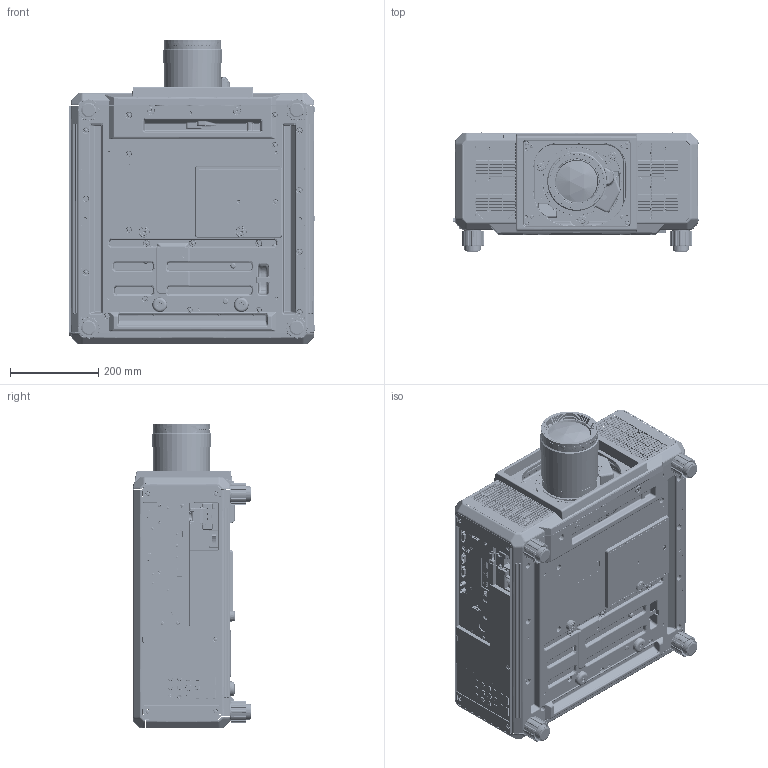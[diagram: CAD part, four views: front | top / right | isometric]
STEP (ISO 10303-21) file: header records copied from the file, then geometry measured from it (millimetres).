
FILE_DESCRIPTION(/* description */ (''),/* implementation_level */ '2;1');
FILE_NAME(/* name */ '01103023_ZA00_RQ25K_D75LE20_FACE.stp',/* time_stamp */ '2022-12-02T10:11:01+09:00',/* author */ (''),/* organization */ (''),/* preprocessor_version */ 'ST-DEVELOPER v16',/* originating_system */ 'SIEMENS PLM Software NX 10.0',/* authorisation */ '');
FILE_SCHEMA (('AUTOMOTIVE_DESIGN { 1 0 10303 214 3 1 1 1 }'));
Products named in the file (1): 01103023_ZA00
Bounding box: 556.3 x 269 x 691.65 mm (x, y, z)
Surface area: 1917568.1 mm2 (no closed solid volume)
Topology: 0 solids, 2226 shells, 10370 faces, 48217 edges, 39474 vertices
Faces by surface type: plane 5130, cylinder 4090, torus 453, bspline 394, cone 182, sphere 119, extrusion 2
Full cylindrical faces by diameter (mm): 1.02 x2, 3 x1, 3.6 x2, 5 x3, 5.5 x2, 6 x2, 7 x2, 8 x2, 9.5 x2, 14.9 x2, 16 x1, 23.647 x1, 37.2 x4, 40 x4, 77.3 x1, 94.3 x1, 102.8 x1, 104 x1, 105.8 x1, 107.6 x1, 109.4 x1, 111.2 x1, 113 x1, 114.8 x1, 125.6 x1, 126.2 x1, 126.6 x1, 128.6 x1, 129 x1, 129.6 x2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
Entity records: 599213 total; most frequent: CARTESIAN_POINT 153953, DIRECTION 78090, ORIENTED_EDGE 58136, EDGE_CURVE 47702, VERTEX_POINT 39318, VECTOR 26542, LINE 26540, AXIS2_PLACEMENT_3D 25774
